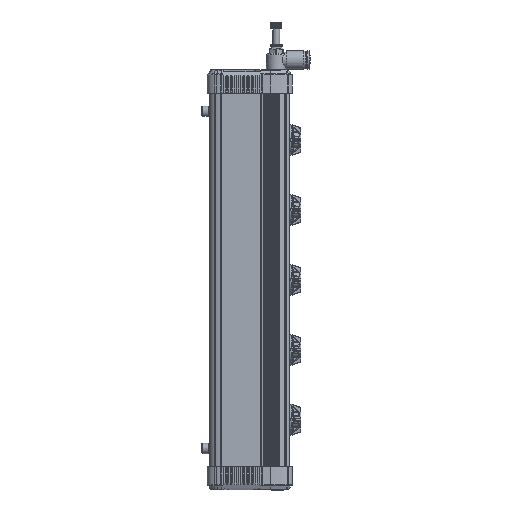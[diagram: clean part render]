
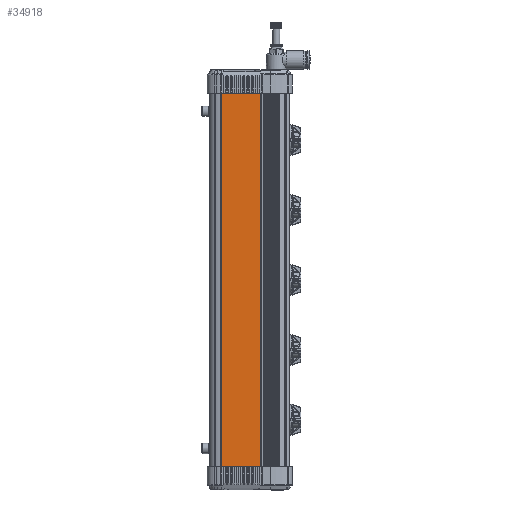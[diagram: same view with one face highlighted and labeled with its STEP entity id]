
A CAD part, left-side view. The second image highlights one B-rep face of the part: STEP entity #34918.
In plain terms, the highlighted planar face has unit normal (-1, 0, 0).
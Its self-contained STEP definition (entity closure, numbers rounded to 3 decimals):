
#34918=ADVANCED_FACE('NONE',(#40143),#37379,.T.);
#37379=PLANE('',#96804);
#40143=FACE_OUTER_BOUND('',#44075,.T.);
#44075=EDGE_LOOP('',(#68134,#68135,#68136,#68137));
#48888=LINE('',#147491,#53522);
#48900=LINE('',#147512,#53534);
#48901=LINE('',#147514,#53535);
#48903=LINE('',#147518,#53537);
#53522=VECTOR('',#112053,1.);
#53534=VECTOR('',#112075,1.);
#53535=VECTOR('',#112078,1.);
#53537=VECTOR('',#112082,1.);
#68134=ORIENTED_EDGE('',*,*,#87408,.T.);
#68135=ORIENTED_EDGE('',*,*,#87411,.T.);
#68136=ORIENTED_EDGE('',*,*,#87409,.T.);
#68137=ORIENTED_EDGE('',*,*,#87396,.F.);
#78769=VERTEX_POINT('',#147490);
#78770=VERTEX_POINT('',#147492);
#78773=VERTEX_POINT('',#147511);
#78774=VERTEX_POINT('',#147515);
#87396=EDGE_CURVE('',#78769,#78770,#48888,.T.);
#87408=EDGE_CURVE('',#78769,#78773,#48900,.T.);
#87409=EDGE_CURVE('',#78774,#78770,#48901,.T.);
#87411=EDGE_CURVE('',#78773,#78774,#48903,.T.);
#96804=AXIS2_PLACEMENT_3D('',#147520,#112085,#112086);
#112053=DIRECTION('',(0.,0.,-1.));
#112075=DIRECTION('',(0.,1.,0.));
#112078=DIRECTION('',(0.,-1.,0.));
#112082=DIRECTION('',(0.,0.,-1.));
#112085=DIRECTION('',(-1.,0.,0.));
#112086=DIRECTION('',(0.,1.,0.));
#147490=CARTESIAN_POINT('',(2872.276,311.144,-1.));
#147491=CARTESIAN_POINT('',(2872.276,311.144,-248.));
#147492=CARTESIAN_POINT('',(2872.276,311.144,-278.));
#147511=CARTESIAN_POINT('',(2872.276,339.694,-1.));
#147512=CARTESIAN_POINT('',(2872.276,1088.789,-1.));
#147514=CARTESIAN_POINT('',(2872.276,340.944,-278.));
#147515=CARTESIAN_POINT('',(2872.276,339.694,-278.));
#147518=CARTESIAN_POINT('',(2872.276,339.694,-227.));
#147520=CARTESIAN_POINT('',(2872.276,340.944,-227.));
